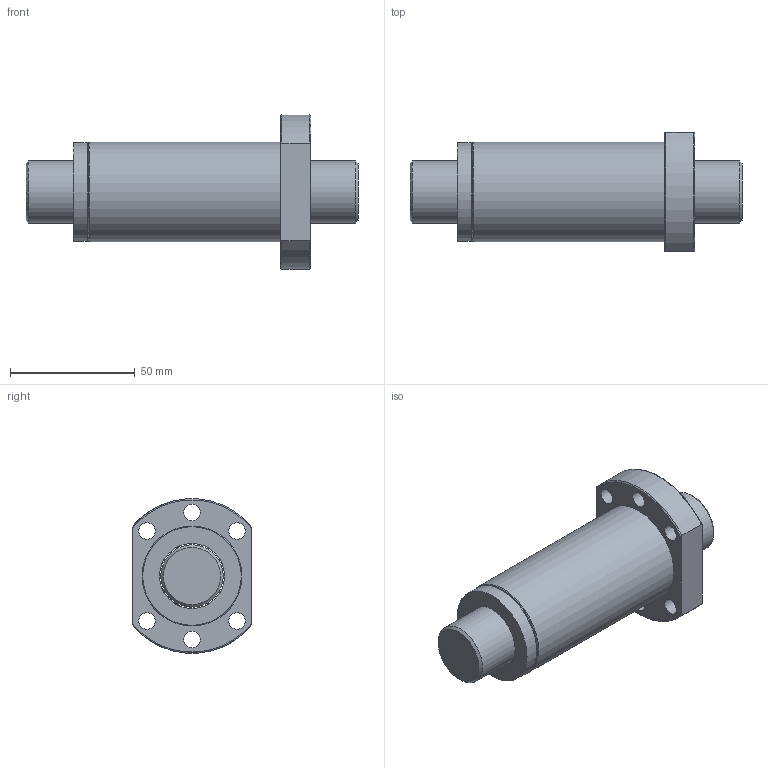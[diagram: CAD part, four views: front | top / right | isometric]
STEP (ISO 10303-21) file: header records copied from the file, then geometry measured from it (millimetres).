
FILE_DESCRIPTION(/* description */ (''),/* implementation_level */ '2;1');
FILE_NAME(/* name */ 'SFS2525-2.8',/* time_stamp */ '2007-10-26T11:00:13+08:00',/* author */ (''),/* organization */ (''),/* preprocessor_version */ 'ST-DEVELOPER v9',/* originating_system */ 'UGS - NX 3.0',/* authorisation */ '');
FILE_SCHEMA (('CONFIG_CONTROL_DESIGN'));
Length unit declared in the file: millimetre
Products named in the file (1): jaso37B0hu7g
Bounding box: 133 x 48 x 61.8 mm (x, y, z)
Volume: 148113.8 mm3; surface area: 41283.5 mm2
Topology: 4 solids, 4 shells, 40 faces, 79 edges, 52 vertices
Faces by surface type: cylinder 18, plane 12, torus 5, bspline 3, cone 2
Full cylindrical faces by diameter (mm): 6.6 x6, 25 x1, 26 x3, 39 x2, 39.5 x3, 40 x1
Entity records: 1242 total; most frequent: CARTESIAN_POINT 357, DIRECTION 166, ORIENTED_EDGE 120, EDGE_LOOP 82, AXIS2_PLACEMENT_3D 79, EDGE_CURVE 60, FACE_BOUND 59, VERTEX_POINT 52
